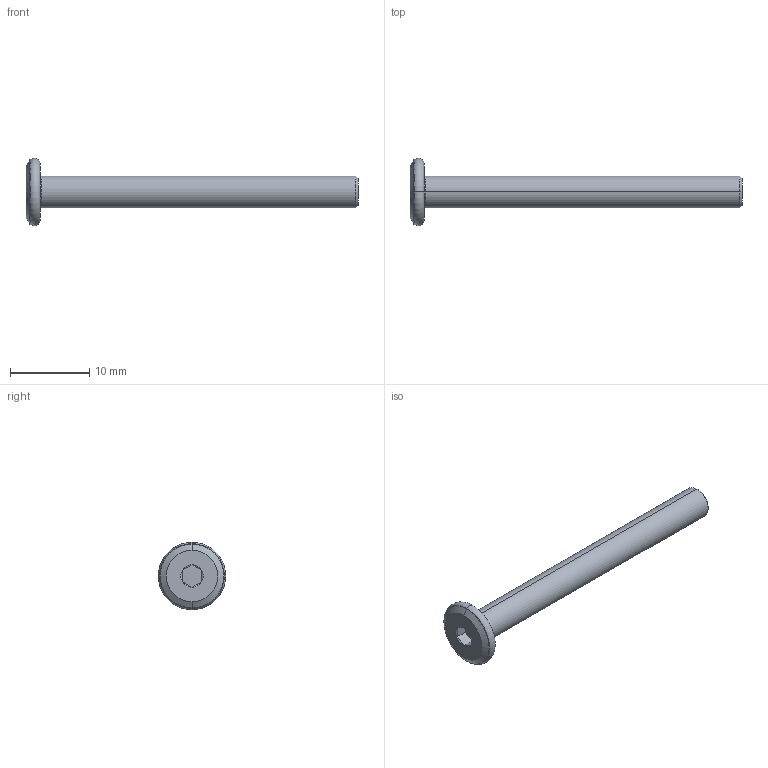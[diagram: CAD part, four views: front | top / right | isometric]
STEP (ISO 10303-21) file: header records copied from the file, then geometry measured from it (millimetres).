
FILE_DESCRIPTION (( 'STEP AP203' ), '1' );
FILE_NAME ('LGD-304D-M4x40.STEP', '2026-08-13T06:49:51', ( '' ), ( '' ), 'SwSTEP 2.0', 'SolidWorks 2020', '' );
FILE_SCHEMA (( 'CONFIG_CONTROL_DESIGN' ));
Length unit declared in the file: millimetre
Products named in the file (1): LGD-304D-M4x40
Bounding box: 41.8 x 8.5 x 8.5 mm (x, y, z)
Volume: 584.5 mm3; surface area: 650.4 mm2
Topology: 1 solids, 1 shells, 28 faces, 52 edges, 28 vertices
Faces by surface type: cone 10, plane 10, torus 6, cylinder 2
Entity records: 791 total; most frequent: CARTESIAN_POINT 151, DIRECTION 132, ORIENTED_EDGE 104, AXIS2_PLACEMENT_3D 57, EDGE_CURVE 52, EDGE_LOOP 30, CIRCLE 28, VERTEX_POINT 28
